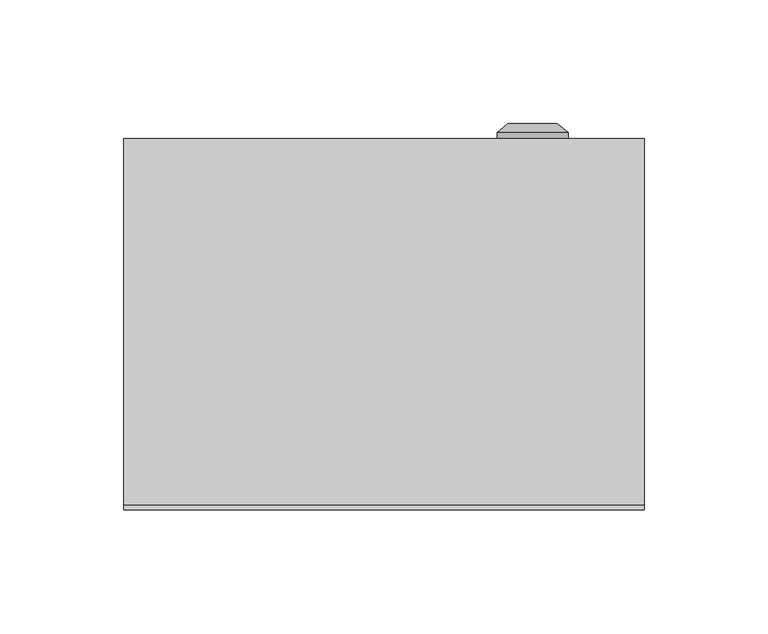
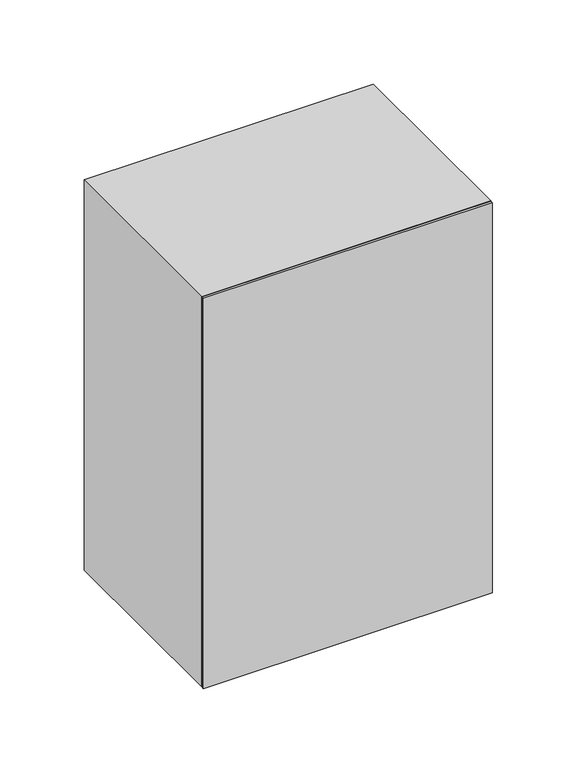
"""IFC4 building model written with IfcOpenShell, lengths in millimetres: proxy geometry, ЩМП : ЩМП-3.2.1-0_300х210х150."""

from ifc_helpers import new_model, si_unit, frame, origin, origin_with_axes, place, context, project, spatial, polyline, circle_curve, outline, extrude, source, transform, mapped, element, save
from ifc_brep_helpers import plane_surface, cylinder_surface, revolved_surface, advanced_brep


def electrical_equipment_7c259b81(model_context):
    return source(origin(), model_context, "Body", "SolidModel", [
        advanced_brep(
        [(45.669873, 150.0, 150.0), (74.330127, 150.0, 150.0), (60.0, 150.0, 150.0), (45.669873, 152.366592, 150.0), (74.330127, 152.366592, 150.0), (50.0, 156.0, 150.0), (70.0, 156.0, 150.0), (58.1080471, 156.0, 150.0), (61.8919529, 156.0, 150.0), (58.1080471, 154.9822294, 150.0), (61.8919529, 154.9822294, 150.0), (60.0, 154.9822294, 150.0)],
        [
            (0, 1, circle_curve(frame((60.0, 150.0, 150.0), z_axis=(0.0, -1.0, 0.0), x_axis=(1.0, 0.0, 0.0)), 14.330127)),
            (1, 2),
            (2, 0),
            (1, 0, circle_curve(frame((60.0, 150.0, 150.0), z_axis=(0.0, -1.0, 0.0), x_axis=(1.0, 0.0, 0.0)), 14.330127)),
            (3, 4, circle_curve(frame((60.0, 152.366592, 150.0), z_axis=(0.0, -1.0, 0.0), x_axis=(1.0, 0.0, 0.0)), 14.330127)),
            (4, 1),
            (0, 3),
            (4, 3, circle_curve(frame((60.0, 152.366592, 150.0), z_axis=(0.0, -1.0, 0.0), x_axis=(1.0, 0.0, 0.0)), 14.330127)),
            (5, 6, circle_curve(frame((60.0, 156.0, 150.0), z_axis=(0.0, -1.0, 0.0), x_axis=(1.0, 0.0, 0.0)), 10.0)),
            (6, 4),
            (3, 5),
            (6, 5, circle_curve(frame((60.0, 156.0, 150.0), z_axis=(0.0, -1.0, 0.0), x_axis=(1.0, 0.0, 0.0)), 10.0)),
            (7, 8, circle_curve(frame((60.0, 156.0, 150.0), z_axis=(0.0, -1.0, 0.0), x_axis=(1.0, 0.0, 0.0)), 1.8919529)),
            (8, 6),
            (5, 7),
            (8, 7, circle_curve(frame((60.0, 156.0, 150.0), z_axis=(0.0, -1.0, 0.0), x_axis=(1.0, 0.0, 0.0)), 1.8919529)),
            (9, 10, circle_curve(frame((60.0, 154.9822294, 150.0), z_axis=(0.0, -1.0, 0.0), x_axis=(1.0, 0.0, 0.0)), 1.8919529)),
            (10, 8),
            (7, 9),
            (10, 9, circle_curve(frame((60.0, 154.9822294, 150.0), z_axis=(0.0, -1.0, 0.0), x_axis=(1.0, 0.0, 0.0)), 1.8919529)),
            (11, 10),
            (9, 11),
        ],
        [
            plane_surface(frame((60.0, 150.0, 150.0), z_axis=(0.0, -1.0, 0.0), x_axis=(1.0, 0.0, 0.0))),
            cylinder_surface(frame((60.0, 163.1348851, 150.0), z_axis=(0.0, 1.0, 0.0), x_axis=(1.0, 0.0, 0.0)), 14.330127),
            revolved_surface(polyline([(74.330127, 152.366592, 150.0), (70.0, 156.0, 150.0)]), (60.0, 163.1348851, 150.0), (0.0, 1.0, 0.0)),
            plane_surface(frame((60.0, 156.0, 150.0), z_axis=(0.0, 1.0, 0.0), x_axis=(1.0, 0.0, 0.0))),
            revolved_surface(polyline([(61.8919529, 156.0, 150.0), (61.8919529, 154.9822294, 150.0)]), (60.0, 163.1348851, 150.0), (0.0, 1.0, 0.0)),
            plane_surface(frame((60.0, 154.9822294, 150.0), z_axis=(0.0, 1.0, 0.0), x_axis=(1.0, 0.0, 0.0))),
        ],
        [
            (0, [[1, 2, 3]]),
            (0, [[4, -3, -2]]),
            (1, [[5, 6, -1, 7]]),
            (1, [[8, -7, -4, -6]]),
            (2, [[9, 10, -5, 11]]),
            (2, [[12, -11, -8, -10]]),
            (3, [[13, 14, -9, 15]]),
            (3, [[16, -15, -12, -14]]),
            (4, [[17, 18, -13, 19]]),
            (4, [[20, -19, -16, -18]]),
            (5, [[21, -17, 22]]),
            (5, [[-22, -20, -21]]),
        ],
    ),
        extrude(outline(polyline([(86.5, 125.0), (-86.5, 125.0), (-86.5, 150.0), (86.5, 150.0), (86.5, 125.0)])), frame((0.0, 0.0, 18.5), z_axis=(0.0, 0.0, 1.0), x_axis=(1.0, 0.0, 0.0)), (0.0, 0.0, 1.0), 263.0),
        extrude(outline(polyline([(300.0, -105.0033905), (0.0, -105.0033905), (0.0, 104.9966095), (300.0, 104.9966095), (300.0, -105.0033905)]), holes=[polyline([(265.0, -70.0033905), (265.0, 69.9966095), (35.0, 69.9966095), (35.0, -70.0033905), (265.0, -70.0033905)])]), frame((0.0, 2.0, 0.0), z_axis=(0.0, 1.0, 0.0), x_axis=(0.0, 0.0, 1.0)), (0.0, 0.0, 1.0), 148.0),
        extrude(outline(polyline([(105.0, 0.0), (-105.0, 0.0), (-105.0, 2.0), (105.0, 2.0), (105.0, 0.0)])), origin_with_axes(), (0.0, 0.0, 1.0), 300.0),
    ])


if __name__ == "__main__":
    model = new_model("IFC4")
    model_context = context("Model", 3, world=origin())
    ifc_project = project(units=[si_unit("LENGTHUNIT", "METRE", prefix="MILLI")], contexts=[model_context])
    site = spatial("IfcSite", under=ifc_project)
    building = spatial("IfcBuilding", under=site)
    placement = place(None, origin())
    electrical_equipment_shape = electrical_equipment_7c259b81(model_context)
    element("IfcBuildingElementProxy", 1, Name="ЩМП : ЩМП-3.2.1-0_300х210х150", ObjectType="ЩМП : ЩМП-3.2.1-0_300х210х150", at=placement, inside=building, context=model_context, shape_type="MappedRepresentation", body=[
        mapped(electrical_equipment_shape, transform((0.0, 0.0, 0.0), x_axis=(1.0, 0.0, 0.0), y_axis=(0.0, 1.0, 0.0), z_axis=(0.0, 0.0, 1.0))),
    ])
    save(model, "model.ifc")
